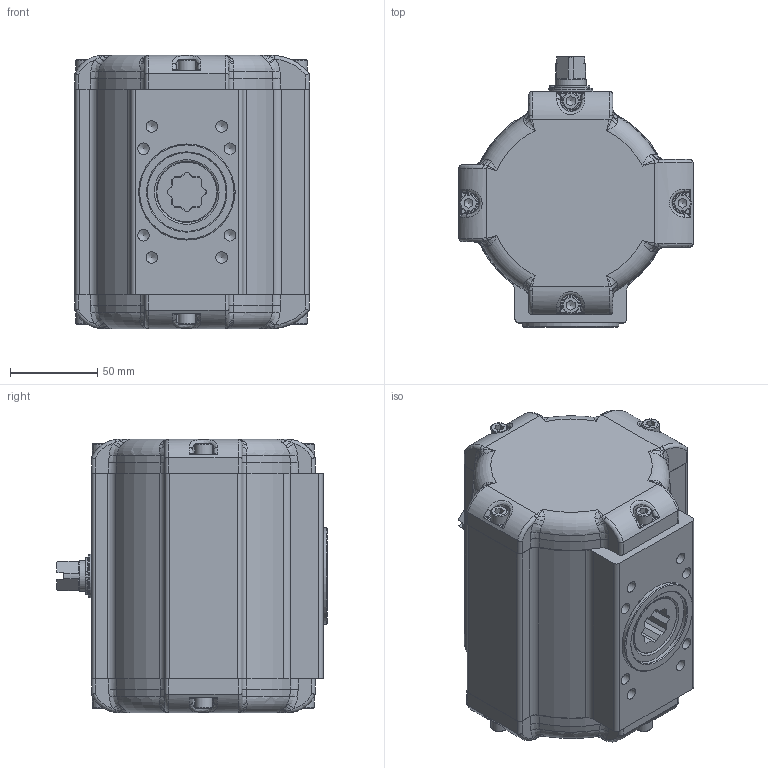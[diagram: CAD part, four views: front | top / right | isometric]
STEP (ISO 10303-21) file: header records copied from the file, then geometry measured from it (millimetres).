
FILE_DESCRIPTION((''),'2;1');
FILE_NAME('Z:\DOKUMENTATION ANTRIEBSPROGRAMM\Antriebe (neu)\BR16_SAD_SAF_90°\STEP-Dateien\20\SAD_20_BR16.stp','2017-06-27T08:14:30',('vmi'),(''),'Autodesk Inventor 2013','Autodesk Inventor 2013','');
FILE_SCHEMA(('AUTOMOTIVE_DESIGN { 1 0 10303 214 1 1 1 1 }'));
Length unit declared in the file: millimetre
Products named in the file (1): ENG-084096_Shrinkwrap_1
Bounding box: 134 x 155 x 156.5 mm (x, y, z)
Surface area: 113769.6 mm2 (no closed solid volume)
Topology: 0 solids, 26 shells, 491 faces, 1485 edges, 996 vertices
Faces by surface type: plane 160, bspline 120, cylinder 110, torus 55, cone 46
Full cylindrical faces by diameter (mm): 2 x2, 4.134 x8, 4.917 x1, 5 x1, 6.647 x8, 10 x8, 11.445 x2, 16.7 x1, 17 x1, 17.8 x1, 25 x2, 45 x1, 55 x1
Entity records: 19968 total; most frequent: CARTESIAN_POINT 7533, ORIENTED_EDGE 2336, DIRECTION 2188, EDGE_CURVE 1364, VERTEX_POINT 965, AXIS2_PLACEMENT_3D 840, EDGE_LOOP 616, VECTOR 508
